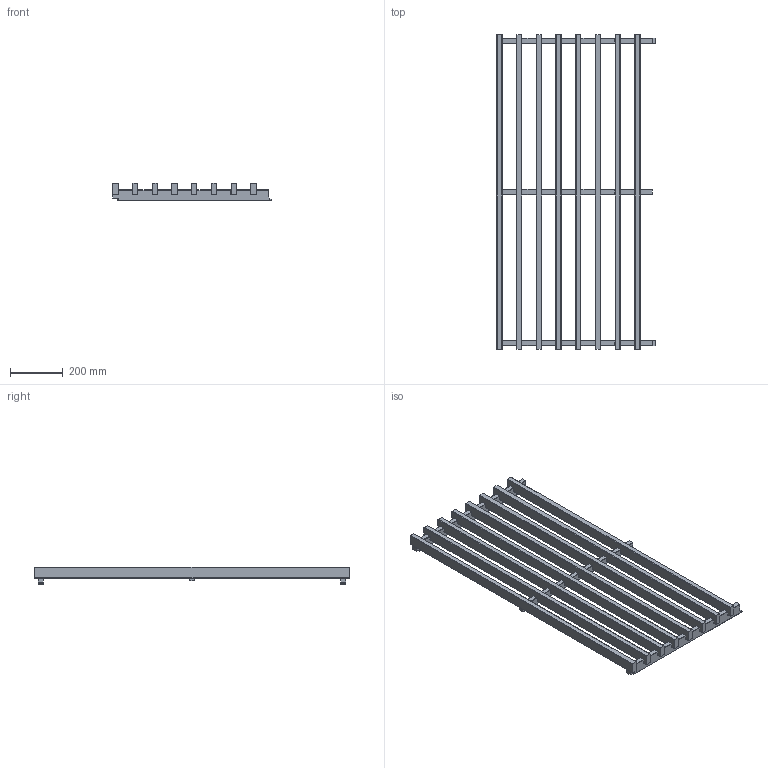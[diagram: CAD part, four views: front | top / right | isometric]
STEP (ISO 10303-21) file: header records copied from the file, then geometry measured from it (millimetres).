
FILE_DESCRIPTION (( 'STEP AP214' ), '1' );
FILE_NAME ('Lao 2.4.5.STEP', '2024-05-31T09:07:03', ( 'UTILISATEUR' ), ( '' ), 'SwSTEP 2.0', 'SolidWorks 2021', '' );
FILE_SCHEMA (( 'AUTOMOTIVE_DESIGN' ));
Length unit declared in the file: millimetre
Products named in the file (4): Contrelatte 20x42_2.4.5; Contrelatte centrale 20x28_2.4.5; Lao 2.4.5; Lame aboutée 20x42x1199mm_1199
Assembly tree (11 placements, depth 2):
  Lao 2.4.5
    Contrelatte 20x42_2.4.5  x2
    Lame aboutée 20x42x1199mm_1199  x8
    Contrelatte centrale 20x28_2.4.5
Bounding box: 603 x 1199 x 66 mm (x, y, z)
Volume: 9158625 mm3; surface area: 1373671.3 mm2
Topology: 11 solids, 11 shells, 286 faces, 792 edges, 528 vertices
Faces by surface type: plane 262, cylinder 24
Entity records: 5044 total; most frequent: CARTESIAN_POINT 884, ORIENTED_EDGE 852, DIRECTION 786, EDGE_CURVE 426, VECTOR 382, LINE 382, VERTEX_POINT 284, AXIS2_PLACEMENT_3D 202
